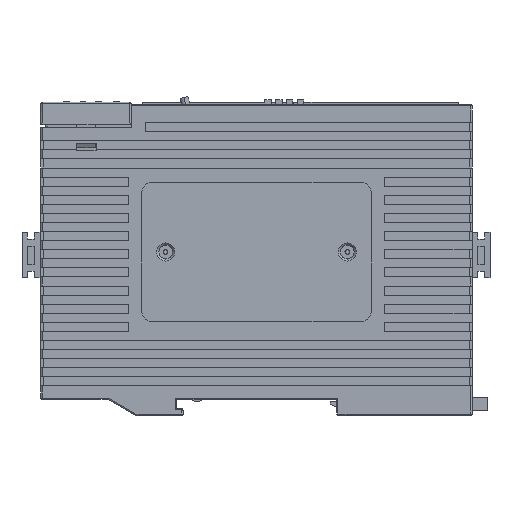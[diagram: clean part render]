
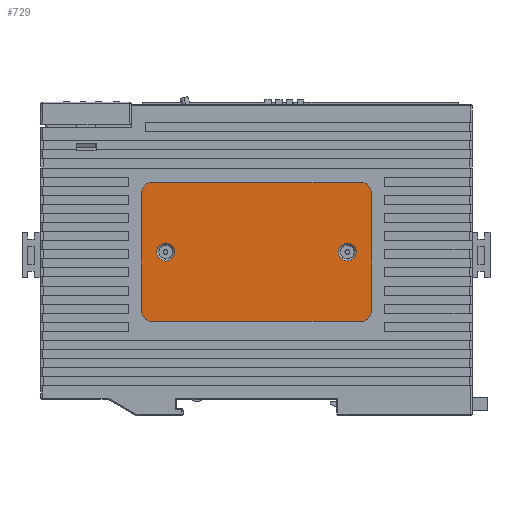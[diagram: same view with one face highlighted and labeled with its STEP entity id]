
A CAD part, left-side view. The second image highlights one B-rep face of the part: STEP entity #729.
In plain terms, the highlighted planar face has unit normal (-1, 0, 0).
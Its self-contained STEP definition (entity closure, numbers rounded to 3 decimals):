
#729 = ADVANCED_FACE ( 'NONE', ( #72059, #55955, #29887 ), #19943, .F. ) ;
#2633 = VECTOR ( 'NONE', #57901, 1000. ) ;
#2924 = VERTEX_POINT ( 'NONE', #79280 ) ;
#3073 = ORIENTED_EDGE ( 'NONE', *, *, #30976, .T. ) ;
#5849 = DIRECTION ( 'NONE',  ( 0., 0., 1. ) ) ;
#7571 = CARTESIAN_POINT ( 'NONE',  ( -24.178, 23.25, -11.75 ) ) ;
#7717 = DIRECTION ( 'NONE',  ( 0., 1., 0. ) ) ;
#8556 = AXIS2_PLACEMENT_3D ( 'NONE', #14305, #22607, #24258 ) ;
#8711 = ORIENTED_EDGE ( 'NONE', *, *, #61595, .T. ) ;
#9465 = EDGE_CURVE ( 'NONE', #25464, #21899, #55711, .T. ) ;
#9549 = EDGE_CURVE ( 'NONE', #27360, #49268, #74534, .T. ) ;
#9745 = DIRECTION ( 'NONE',  ( -1., 0., 0. ) ) ;
#12742 = CARTESIAN_POINT ( 'NONE',  ( -24.178, 0., 1.5 ) ) ;
#14034 = ORIENTED_EDGE ( 'NONE', *, *, #84215, .T. ) ;
#14305 = CARTESIAN_POINT ( 'NONE',  ( -24.178, 20., 1.5 ) ) ;
#15470 = AXIS2_PLACEMENT_3D ( 'NONE', #89580, #97924, #106778 ) ;
#17492 = CARTESIAN_POINT ( 'NONE',  ( -24.178, -23.25, -11.75 ) ) ;
#17741 = CARTESIAN_POINT ( 'NONE',  ( -24.178, -20., 3.5 ) ) ;
#19943 = PLANE ( 'NONE',  #94141 ) ;
#20090 = CARTESIAN_POINT ( 'NONE',  ( -24.178, 23.25, -13.75 ) ) ;
#20495 = CARTESIAN_POINT ( 'NONE',  ( -24.178, 23.25, 14.75 ) ) ;
#21899 = VERTEX_POINT ( 'NONE', #17741 ) ;
#22607 = DIRECTION ( 'NONE',  ( 1., 0., 0. ) ) ;
#24258 = DIRECTION ( 'NONE',  ( 0., 0., 1. ) ) ;
#25464 = VERTEX_POINT ( 'NONE', #58589 ) ;
#27360 = VERTEX_POINT ( 'NONE', #109624 ) ;
#29887 = FACE_BOUND ( 'NONE', #91871, .T. ) ;
#30078 = AXIS2_PLACEMENT_3D ( 'NONE', #98732, #90947, #106492 ) ;
#30404 = VERTEX_POINT ( 'NONE', #68341 ) ;
#30976 = EDGE_CURVE ( 'NONE', #83730, #30404, #50434, .T. ) ;
#31343 = AXIS2_PLACEMENT_3D ( 'NONE', #7571, #83996, #31364 ) ;
#31364 = DIRECTION ( 'NONE',  ( 0., 0., 1. ) ) ;
#36422 = ORIENTED_EDGE ( 'NONE', *, *, #102944, .F. ) ;
#36991 = LINE ( 'NONE', #95749, #49962 ) ;
#40453 = ORIENTED_EDGE ( 'NONE', *, *, #53090, .T. ) ;
#41261 = CIRCLE ( 'NONE', #53662, 2. ) ;
#41584 = AXIS2_PLACEMENT_3D ( 'NONE', #20495, #79226, #72043 ) ;
#44144 = ORIENTED_EDGE ( 'NONE', *, *, #46305, .T. ) ;
#45690 = CIRCLE ( 'NONE', #8556, 2. ) ;
#46305 = EDGE_CURVE ( 'NONE', #106273, #83730, #50870, .T. ) ;
#47475 = CARTESIAN_POINT ( 'NONE',  ( -24.178, 23.25, 16.75 ) ) ;
#49268 = VERTEX_POINT ( 'NONE', #72761 ) ;
#49892 = VECTOR ( 'NONE', #7717, 1000. ) ;
#49962 = VECTOR ( 'NONE', #70820, 1000. ) ;
#50434 = CIRCLE ( 'NONE', #41584, 2. ) ;
#50870 = LINE ( 'NONE', #100256, #49892 ) ;
#53090 = EDGE_CURVE ( 'NONE', #102131, #2924, #45690, .T. ) ;
#53662 = AXIS2_PLACEMENT_3D ( 'NONE', #17492, #9745, #95058 ) ;
#53749 = DIRECTION ( 'NONE',  ( 0., -1., 0. ) ) ;
#54864 = CIRCLE ( 'NONE', #30078, 2. ) ;
#55711 = CIRCLE ( 'NONE', #108823, 2. ) ;
#55955 = FACE_BOUND ( 'NONE', #64677, .T. ) ;
#57187 = LINE ( 'NONE', #83203, #98931 ) ;
#57489 = CARTESIAN_POINT ( 'NONE',  ( -24.178, 25.25, -11.75 ) ) ;
#57901 = DIRECTION ( 'NONE',  ( 0., 0., 1. ) ) ;
#58589 = CARTESIAN_POINT ( 'NONE',  ( -24.178, -20., -0.5 ) ) ;
#59084 = ORIENTED_EDGE ( 'NONE', *, *, #82219, .T. ) ;
#59689 = CIRCLE ( 'NONE', #31343, 2. ) ;
#61595 = EDGE_CURVE ( 'NONE', #84069, #81989, #36991, .T. ) ;
#61628 = EDGE_LOOP ( 'NONE', ( #8711, #88237, #85661, #90913, #44144, #3073, #14034, #102673 ) ) ;
#64677 = EDGE_LOOP ( 'NONE', ( #69316, #36422 ) ) ;
#64929 = CARTESIAN_POINT ( 'NONE',  ( -24.178, -23.25, -13.75 ) ) ;
#66038 = EDGE_CURVE ( 'NONE', #81989, #27360, #41261, .T. ) ;
#66232 = CARTESIAN_POINT ( 'NONE',  ( -24.178, -25.25, -13.75 ) ) ;
#68341 = CARTESIAN_POINT ( 'NONE',  ( -24.178, 25.25, 14.75 ) ) ;
#69316 = ORIENTED_EDGE ( 'NONE', *, *, #9465, .F. ) ;
#70820 = DIRECTION ( 'NONE',  ( 0., -1., 0. ) ) ;
#72043 = DIRECTION ( 'NONE',  ( 0., 0., 1. ) ) ;
#72059 = FACE_OUTER_BOUND ( 'NONE', #61628, .T. ) ;
#72761 = CARTESIAN_POINT ( 'NONE',  ( -24.178, -25.25, 14.75 ) ) ;
#74534 = LINE ( 'NONE', #66232, #2633 ) ;
#79205 = CIRCLE ( 'NONE', #15470, 2. ) ;
#79226 = DIRECTION ( 'NONE',  ( -1., 0., 0. ) ) ;
#79280 = CARTESIAN_POINT ( 'NONE',  ( -24.178, 20., -0.5 ) ) ;
#79910 = VERTEX_POINT ( 'NONE', #57489 ) ;
#81989 = VERTEX_POINT ( 'NONE', #64929 ) ;
#82219 = EDGE_CURVE ( 'NONE', #2924, #102131, #79205, .T. ) ;
#82345 = EDGE_CURVE ( 'NONE', #79910, #84069, #59689, .T. ) ;
#82825 = CARTESIAN_POINT ( 'NONE',  ( -24.178, -20., 1.5 ) ) ;
#83203 = CARTESIAN_POINT ( 'NONE',  ( -24.178, 25.25, -13.75 ) ) ;
#83366 = DIRECTION ( 'NONE',  ( -1., 0., 0. ) ) ;
#83730 = VERTEX_POINT ( 'NONE', #47475 ) ;
#83771 = DIRECTION ( 'NONE',  ( 0., 0., -1. ) ) ;
#83996 = DIRECTION ( 'NONE',  ( -1., 0., 0. ) ) ;
#84069 = VERTEX_POINT ( 'NONE', #20090 ) ;
#84215 = EDGE_CURVE ( 'NONE', #30404, #79910, #57187, .T. ) ;
#85147 = EDGE_CURVE ( 'NONE', #49268, #106273, #54864, .T. ) ;
#85661 = ORIENTED_EDGE ( 'NONE', *, *, #9549, .T. ) ;
#88237 = ORIENTED_EDGE ( 'NONE', *, *, #66038, .T. ) ;
#89313 = CARTESIAN_POINT ( 'NONE',  ( -24.178, 20., 3.5 ) ) ;
#89373 = CARTESIAN_POINT ( 'NONE',  ( -24.178, -23.25, 16.75 ) ) ;
#89580 = CARTESIAN_POINT ( 'NONE',  ( -24.178, 20., 1.5 ) ) ;
#90913 = ORIENTED_EDGE ( 'NONE', *, *, #85147, .T. ) ;
#90947 = DIRECTION ( 'NONE',  ( -1., 0., 0. ) ) ;
#91871 = EDGE_LOOP ( 'NONE', ( #59084, #40453 ) ) ;
#94141 = AXIS2_PLACEMENT_3D ( 'NONE', #12742, #106396, #53749 ) ;
#95058 = DIRECTION ( 'NONE',  ( 0., 0., 1. ) ) ;
#95749 = CARTESIAN_POINT ( 'NONE',  ( -24.178, 25.25, -13.75 ) ) ;
#95944 = AXIS2_PLACEMENT_3D ( 'NONE', #108989, #107347, #99567 ) ;
#97709 = CIRCLE ( 'NONE', #95944, 2. ) ;
#97924 = DIRECTION ( 'NONE',  ( 1., 0., 0. ) ) ;
#98732 = CARTESIAN_POINT ( 'NONE',  ( -24.178, -23.25, 14.75 ) ) ;
#98931 = VECTOR ( 'NONE', #83771, 1000. ) ;
#99567 = DIRECTION ( 'NONE',  ( 0., 0., 1. ) ) ;
#100256 = CARTESIAN_POINT ( 'NONE',  ( -24.178, 25.25, 16.75 ) ) ;
#102131 = VERTEX_POINT ( 'NONE', #89313 ) ;
#102673 = ORIENTED_EDGE ( 'NONE', *, *, #82345, .T. ) ;
#102944 = EDGE_CURVE ( 'NONE', #21899, #25464, #97709, .T. ) ;
#106273 = VERTEX_POINT ( 'NONE', #89373 ) ;
#106396 = DIRECTION ( 'NONE',  ( 1., 0., 0. ) ) ;
#106492 = DIRECTION ( 'NONE',  ( 0., 0., 1. ) ) ;
#106778 = DIRECTION ( 'NONE',  ( 0., 0., 1. ) ) ;
#107347 = DIRECTION ( 'NONE',  ( -1., 0., 0. ) ) ;
#108823 = AXIS2_PLACEMENT_3D ( 'NONE', #82825, #83366, #5849 ) ;
#108989 = CARTESIAN_POINT ( 'NONE',  ( -24.178, -20., 1.5 ) ) ;
#109624 = CARTESIAN_POINT ( 'NONE',  ( -24.178, -25.25, -11.75 ) ) ;
